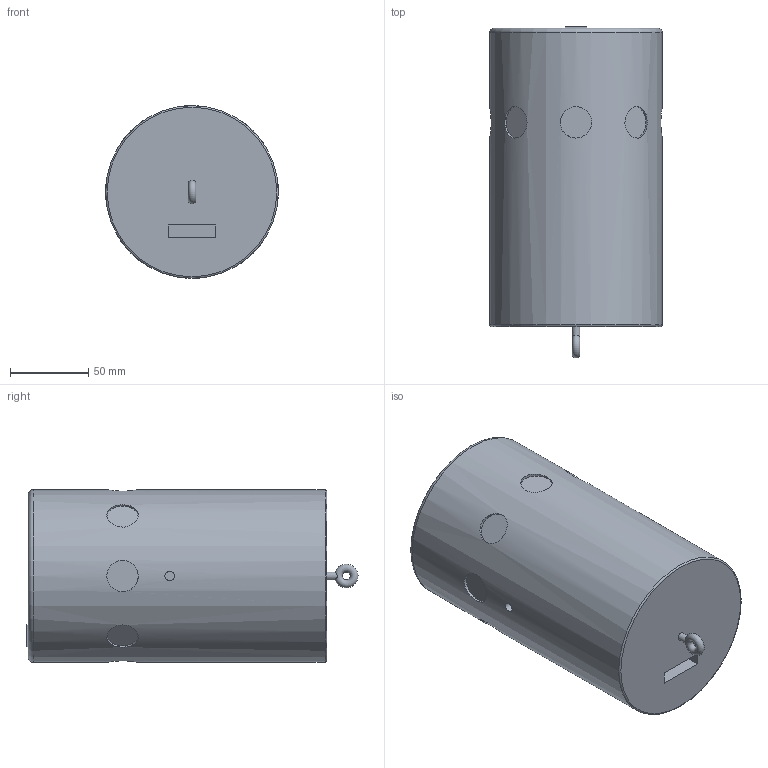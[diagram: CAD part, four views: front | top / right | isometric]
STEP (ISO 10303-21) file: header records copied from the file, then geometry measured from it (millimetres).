
FILE_DESCRIPTION(/* description */ (''),/* implementation_level */ '2;1');
FILE_NAME(/* name */ 'FZ 110.stp',/* time_stamp */ '2024-05-22T10:09:47+02:00',/* author */ ('d.streicher'),/* organization */ (''),/* preprocessor_version */ 'ST-DEVELOPER v20',/* originating_system */ 'Autodesk Inventor 2025',/* authorisation */ '');
FILE_SCHEMA (('AUTOMOTIVE_DESIGN { 1 0 10303 214 3 1 1 }'));
Length unit declared in the file: millimetre
Products named in the file (1): FZ 110 weiß
Bounding box: 110 x 211.5 x 110 mm (x, y, z)
Volume: 1798742.7 mm3; surface area: 86420.9 mm2
Topology: 1 solids, 1 shells, 51 faces, 126 edges, 91 vertices
Faces by surface type: plane 33, cylinder 15, torus 3
Full cylindrical faces by diameter (mm): 5 x1, 6 x1, 20 x8, 110 x1
Entity records: 1973 total; most frequent: CARTESIAN_POINT 628, ORIENTED_EDGE 250, DIRECTION 232, EDGE_CURVE 125, VERTEX_POINT 88, AXIS2_PLACEMENT_3D 84, EDGE_LOOP 65, LINE 64
